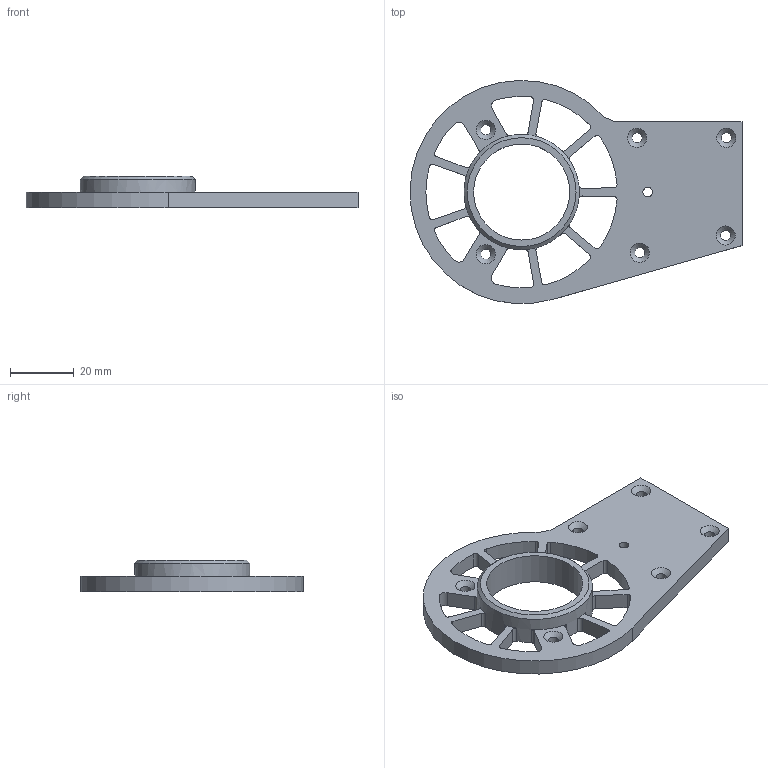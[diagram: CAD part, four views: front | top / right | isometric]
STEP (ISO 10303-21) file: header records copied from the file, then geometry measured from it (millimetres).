
FILE_DESCRIPTION(/* description */ (''),/* implementation_level */ '2;1');
FILE_NAME(/* name */ 'D:\3D печать\Мои проекты\Archy MK 2\STEP\MK3\плечо V4 крышка.stp',/* time_stamp */ '2019-07-18T22:02:40+06:00',/* author */ ('Пользователь'),/* organization */ (''),/* preprocessor_version */ 'ST-DEVELOPER v16.5',/* originating_system */ 'Autodesk Inventor 2017',/* authorisation */ '');
FILE_SCHEMA (('AUTOMOTIVE_DESIGN { 1 0 10303 214 3 1 1 }'));
Length unit declared in the file: millimetre
Products named in the file (1): плечо V4 \X2\043A0440044B0448043A
0430\X0\
Bounding box: 104.04 x 69.92 x 10 mm (x, y, z)
Volume: 18524.3 mm3; surface area: 12183 mm2
Topology: 1 solids, 1 shells, 88 faces, 305 edges, 241 vertices
Faces by surface type: cylinder 55, plane 26, cone 7
Full cylindrical faces by diameter (mm): 3 x1, 3.2 x6, 30.1 x1, 36.1 x1
Entity records: 3377 total; most frequent: CARTESIAN_POINT 617, DIRECTION 602, ORIENTED_EDGE 516, EDGE_CURVE 258, AXIS2_PLACEMENT_3D 225, VERTEX_POINT 180, LINE 152, VECTOR 152
